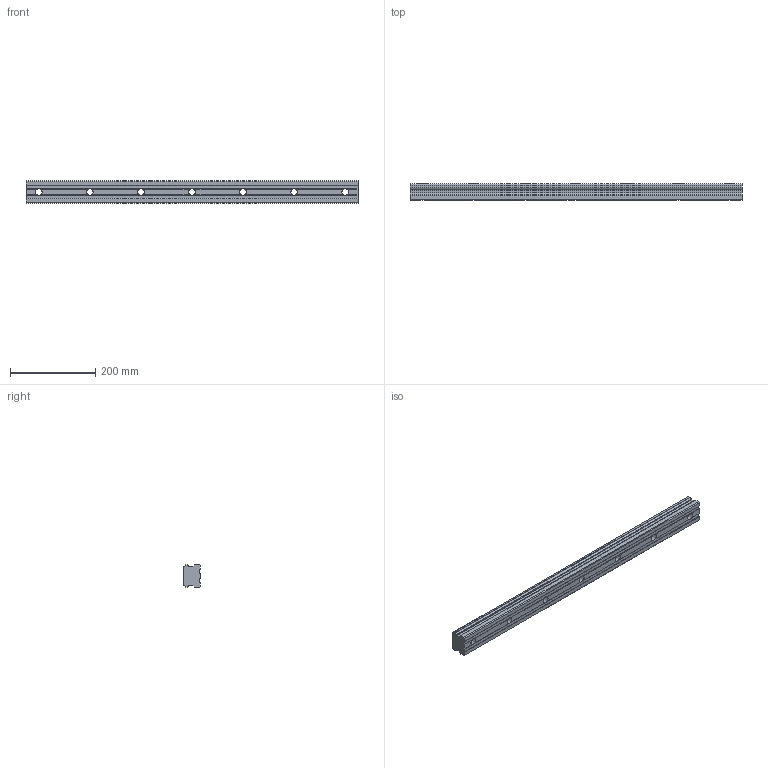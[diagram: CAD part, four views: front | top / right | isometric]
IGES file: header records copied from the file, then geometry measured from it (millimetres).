
Start section: Data from Parasolid IGES Translator 26.0.171, Copyright(c) 2006 Siemens PLM Software. All Rights Reserved.
Global section: file name: SHS55-780L(GK) RAIL(30).igs; native system: By Siemens PLM Incorporated; preprocessor: XPlus GENERIC/IGES 26.0.171; author: Noname; organization: Noname; date: 20240514.034304; units: millimetre
Bounding box: 780 x 38 x 53 mm (x, y, z)
Surface area: 161409.8 mm2 (no closed solid volume)
Topology: 0 solids, 0 shells, 103 faces, 606 edges, 585 vertices
Faces by surface type: extrusion 52, revolution 51
